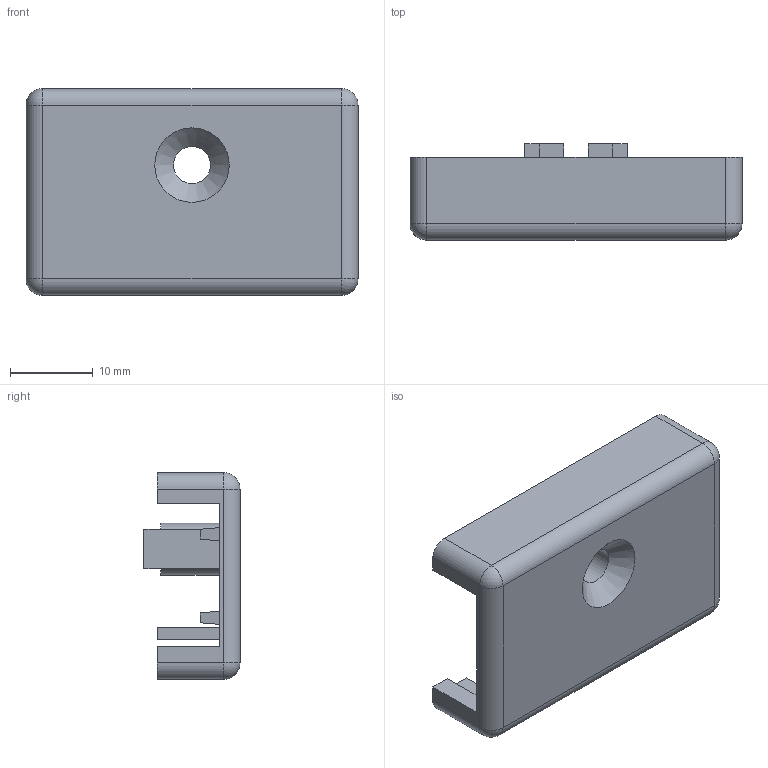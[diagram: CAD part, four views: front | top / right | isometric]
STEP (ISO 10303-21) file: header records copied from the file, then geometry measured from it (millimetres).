
FILE_DESCRIPTION(/* description */ ('Gehäuse für Rolleverschluss'),/* implementation_level */ '2;1');
FILE_NAME(/* name */ 'P:\3D-Druck\Sven Hedin\Rolloverschluss\Griff 281 070 402 B.stp',/* time_stamp */ '2024-09-27T15:34:42+02:00',/* author */ ('fk'),/* organization */ (''),/* preprocessor_version */ 'ST-DEVELOPER v18.1',/* originating_system */ 'Autodesk Inventor 2022',/* authorisation */ '');
FILE_SCHEMA (('AUTOMOTIVE_DESIGN { 1 0 10303 214 3 1 1 }'));
Length unit declared in the file: millimetre
Products named in the file (1): Gehäuse
Bounding box: 40.1 x 11.6 x 25 mm (x, y, z)
Volume: 4190.7 mm3; surface area: 4089.9 mm2
Topology: 1 solids, 1 shells, 89 faces, 233 edges, 151 vertices
Faces by surface type: plane 73, cylinder 11, sphere 4, cone 1
Full cylindrical faces by diameter (mm): 4.5 x1
Entity records: 2735 total; most frequent: CARTESIAN_POINT 474, ORIENTED_EDGE 466, DIRECTION 440, EDGE_CURVE 233, LINE 206, VECTOR 206, VERTEX_POINT 151, AXIS2_PLACEMENT_3D 117
